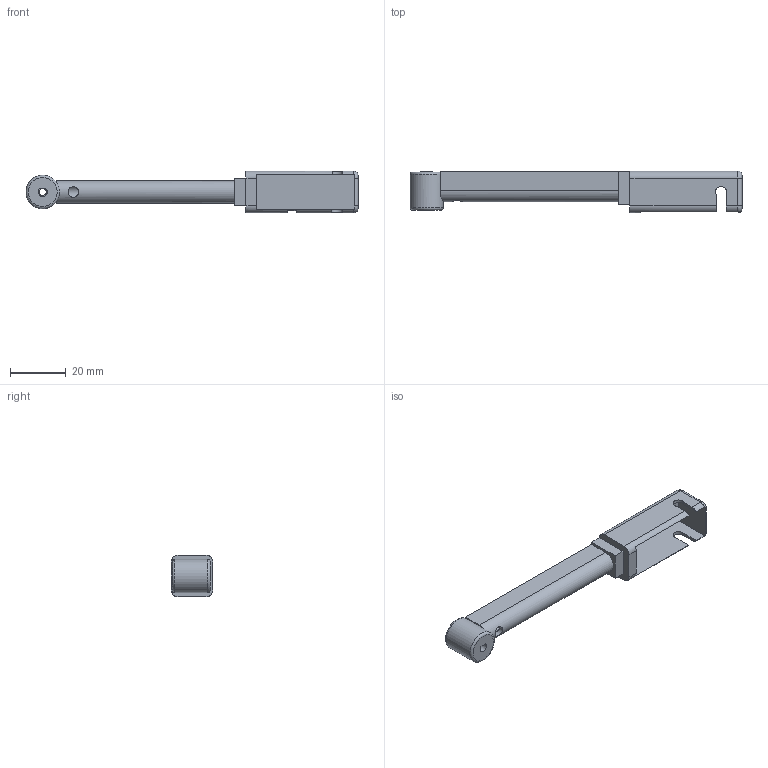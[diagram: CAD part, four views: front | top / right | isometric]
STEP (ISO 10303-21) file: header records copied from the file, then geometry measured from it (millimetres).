
FILE_DESCRIPTION(('Open CASCADE Model'),'2;1');
FILE_NAME('Open CASCADE Shape Model','2026-11-07T02:16:27',('Author'),( 'Open CASCADE'),'Open CASCADE STEP processor 8.0','build123d', 'Unknown');
FILE_SCHEMA(('AUTOMOTIVE_DESIGN { 1 0 10303 214 1 1 1 1 }'));
Length unit declared in the file: millimetre
Products named in the file (1): COMPOUND
Bounding box: 119.24 x 15.01 x 15 mm (x, y, z)
Volume: 8364.6 mm3; surface area: 7940.9 mm2
Topology: 1 solids, 1 shells, 58 faces, 153 edges, 99 vertices
Faces by surface type: plane 33, cylinder 19, revolution 4, torus 2
Full cylindrical faces by diameter (mm): 2.5 x1, 3.8 x1, 4.4 x1, 4.6 x1, 12 x1
Entity records: 5593 total; most frequent: CARTESIAN_POINT 2706, DIRECTION 485, ORIENTED_EDGE 306, PCURVE 306, DEFINITIONAL_REPRESENTATION 306, LINE 250, VECTOR 250, EDGE_CURVE 153
